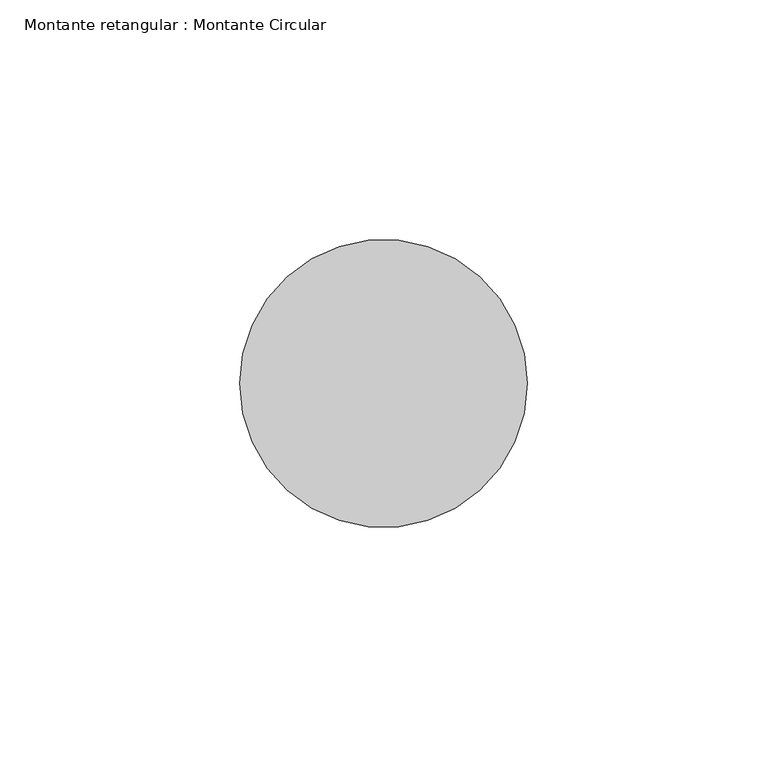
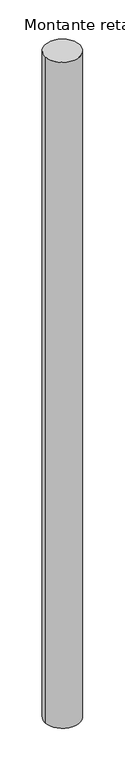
"""IFC4 building model written with IfcOpenShell, lengths in millimetres: member geometry, Montante retangular : Montante Circular."""

import ifcopenshell
import ifcopenshell.guid

model = None  # the IFC model being written
_history = None  # IfcOwnerHistory: only IFC2X3 demands one
_inside = {}  # id of a spatial element -> (the spatial element, [elements in it])
_under = {}  # id of a project, library or spatial element -> (it, [spatial elements below it])
_declared = {}  # id of a project -> (the project, [libraries it declares])
_typed = {}  # id of a type object -> (the type object, [elements of that type])
_made_of = {}  # id of a material, layer set ... -> (it, [elements and type objects made of it])


def new_model(schema):
    """Start an empty IFC model of exactly this schema.

    Asked for "IFC4X3", IfcOpenShell would pick the latest addendum, in which some entities
    have other attributes; the version numbers below select the first issue.
    IFC2X3 requires an IfcOwnerHistory on every rooted entity: one is made here for all.
    """
    global model, _history
    if schema == "IFC4X3":
        model = ifcopenshell.file(schema_version=(4, 3, 0, 0))
    else:
        model = ifcopenshell.file(schema=schema)
    _inside.clear()
    _under.clear()
    _declared.clear()
    _typed.clear()
    _made_of.clear()
    _history = None
    if model.schema == "IFC2X3":
        org = make("IfcOrganization", Name="unknown")
        user = make(
            "IfcPersonAndOrganization",
            ThePerson=make("IfcPerson", FamilyName="unknown"),
            TheOrganization=org,
        )
        app = make(
            "IfcApplication",
            ApplicationDeveloper=org,
            Version="unknown",
            ApplicationFullName="unknown",
            ApplicationIdentifier="unknown",
        )
        _history = make(
            "IfcOwnerHistory",
            OwningUser=user,
            OwningApplication=app,
            ChangeAction="ADDED",
            CreationDate=0,
        )
    return model


def make(cls, **values):
    """One entity of the class cls with the attributes given. An attribute that is None is left unset."""
    return model.create_entity(
        cls, **{name: value for name, value in values.items() if value is not None}
    )


def rooted(cls, **values):
    """An entity with a GlobalId (a new one), such as an element, a storey or a relation."""
    return make(cls, GlobalId=ifcopenshell.guid.new(), OwnerHistory=_history, **values)


def si_unit(unit_type, name, prefix=None):
    """IfcSIUnit, for example si_unit("LENGTHUNIT", "METRE", prefix="MILLI")."""
    return make("IfcSIUnit", UnitType=unit_type, Prefix=prefix, Name=name)


def assignment(units):
    """IfcUnitAssignment: the units of a project."""
    return None if units is None else make("IfcUnitAssignment", Units=units)


def point(xyz):
    """IfcCartesianPoint."""
    return None if xyz is None else make("IfcCartesianPoint", Coordinates=xyz)


def direction(xyz):
    """IfcDirection."""
    return None if xyz is None else make("IfcDirection", DirectionRatios=xyz)


def frame(location, z_axis=None, x_axis=None):
    """IfcAxis2Placement3D, a coordinate frame: its origin and axes. An axis left out is left unset."""
    return make(
        "IfcAxis2Placement3D",
        Location=point(location),
        Axis=direction(z_axis),
        RefDirection=direction(x_axis),
    )


def frame_2d(location, x_axis=None):
    """IfcAxis2Placement2D, a coordinate frame in the plane: its origin and x axis."""
    return make(
        "IfcAxis2Placement2D", Location=point(location), RefDirection=direction(x_axis)
    )


def origin():
    """The frame at (0, 0, 0) with its axes left unset."""
    return frame((0.0, 0.0, 0.0))


def place(relative_to, where):
    """IfcLocalPlacement: puts the frame where relative to a parent placement (None: the world)."""
    return make(
        "IfcLocalPlacement", PlacementRelTo=relative_to, RelativePlacement=where
    )


def context(
    kind, dimensions, precision=None, world=None, true_north=None, identifier=None
):
    """IfcGeometricRepresentationContext, for example the 3D "Model" context."""
    return make(
        "IfcGeometricRepresentationContext",
        ContextIdentifier=identifier,
        ContextType=kind,
        CoordinateSpaceDimension=dimensions,
        Precision=precision,
        WorldCoordinateSystem=world,
        TrueNorth=true_north,
    )


def project(units=None, contexts=None):
    """IfcProject with its units and contexts."""
    return rooted(
        "IfcProject",
        Name="project",
        RepresentationContexts=contexts,
        UnitsInContext=assignment(units),
    )


def spatial(cls, under=None, at=None, **own):
    """A site, building, storey or space (cls), placed at a placement, below another one or the project."""
    s = rooted(cls, ObjectPlacement=at, **own)
    if under is not None:
        _under.setdefault(under.id(), (under, []))[1].append(s)
    return s


def circle_curve(where, radius):
    """IfcCircle in the frame where."""
    return make("IfcCircle", Position=where, Radius=radius)


def trimmed(basis, trim1, trim2, sense, master):
    """IfcTrimmedCurve: the piece of a basis curve between two trims."""
    return make(
        "IfcTrimmedCurve",
        BasisCurve=basis,
        Trim1=trim1,
        Trim2=trim2,
        SenseAgreement=sense,
        MasterRepresentation=master,
    )


def segment(curve, same_sense, transition):
    """IfcCompositeCurveSegment."""
    return make(
        "IfcCompositeCurveSegment",
        Transition=transition,
        SameSense=same_sense,
        ParentCurve=curve,
    )


def composite_curve(segments, self_intersect=None):
    """IfcCompositeCurve: segments joined end to end."""
    return make("IfcCompositeCurve", Segments=segments, SelfIntersect=self_intersect)


def outline(outer, holes=None, kind="AREA"):
    """IfcArbitraryClosedProfileDef: a profile drawn as a closed curve; with holes, ...WithVoids."""
    if holes is None:
        return make("IfcArbitraryClosedProfileDef", ProfileType=kind, OuterCurve=outer)
    return make(
        "IfcArbitraryProfileDefWithVoids",
        ProfileType=kind,
        OuterCurve=outer,
        InnerCurves=holes,
    )


def extrude(swept, where, along, depth):
    """IfcExtrudedAreaSolid: the profile swept, set in the frame where, extruded along a direction by depth."""
    return make(
        "IfcExtrudedAreaSolid",
        SweptArea=swept,
        Position=where,
        ExtrudedDirection=direction(along),
        Depth=depth,
    )


def shape(context_of_items, identifier, shape_type, items):
    """IfcShapeRepresentation: the items that make up one representation, for example the "Body"."""
    return make(
        "IfcShapeRepresentation",
        ContextOfItems=context_of_items,
        RepresentationIdentifier=identifier,
        RepresentationType=shape_type,
        Items=items,
    )


def source(mapping_origin, context_of_items, identifier, shape_type, items):
    """IfcRepresentationMap: a shape defined once, which mapped items show again and again."""
    return make(
        "IfcRepresentationMap",
        MappingOrigin=mapping_origin,
        MappedRepresentation=shape(context_of_items, identifier, shape_type, items),
    )


def transform(
    local_origin,
    x_axis=None,
    y_axis=None,
    z_axis=None,
    scale=None,
    scale2=None,
    scale3=None,
    uniform=True,
):
    """IfcCartesianTransformationOperator3D, or its non-uniform kind. x_axis, y_axis, z_axis: its Axis1, 2, 3."""
    if uniform:
        return make(
            "IfcCartesianTransformationOperator3D",
            Axis1=direction(x_axis),
            Axis2=direction(y_axis),
            LocalOrigin=point(local_origin),
            Scale=scale,
            Axis3=direction(z_axis),
        )
    return make(
        "IfcCartesianTransformationOperator3DnonUniform",
        Axis1=direction(x_axis),
        Axis2=direction(y_axis),
        LocalOrigin=point(local_origin),
        Scale=scale,
        Axis3=direction(z_axis),
        Scale2=scale2,
        Scale3=scale3,
    )


def mapped(mapping_source, mapping_target):
    """IfcMappedItem: shows the shape of a source again, moved by a transform."""
    return make(
        "IfcMappedItem", MappingSource=mapping_source, MappingTarget=mapping_target
    )


def made_of(thing, what):
    """Note that an element or type object is made of a material, layer set ...; save() writes the relation."""
    if what is not None:
        _made_of.setdefault(what.id(), (what, []))[1].append(thing)
    return thing


def element(
    cls,
    number,
    at=None,
    inside=None,
    cuts=None,
    type_object=None,
    material=None,
    context=None,
    identifier="Body",
    shape_type=None,
    held_by="IfcProductDefinitionShape",
    body=None,
    shapes=None,
    **own,
):
    """One element of the class cls, such as IfcWall. Its Tag is "e" and its number.

    at: its placement. inside: the storey or other place that contains it. cuts: it is an
    opening in that element (IfcRelVoidsElement). A single representation is given by context,
    identifier, shape_type and body (its items); several are given by shapes. held_by: the class
    of the entity that holds the representations. save() writes the other relations.
    """
    e = rooted(cls, Tag="e%d" % number, ObjectPlacement=at, **own)
    if body is not None:
        shapes = [shape(context, identifier, shape_type, body)]
    if shapes is not None:
        e.Representation = make(held_by, Representations=shapes)
    if inside is not None:
        _inside.setdefault(inside.id(), (inside, []))[1].append(e)
    if cuts is not None:
        rooted(
            "IfcRelVoidsElement", RelatingBuildingElement=cuts, RelatedOpeningElement=e
        )
    if type_object is not None:
        _typed.setdefault(type_object.id(), (type_object, []))[1].append(e)
    return made_of(e, material)


def aggregate(whole, parts):
    """IfcRelAggregates: a whole, such as a stair, and the parts it consists of."""
    return rooted("IfcRelAggregates", RelatingObject=whole, RelatedObjects=parts)


def save(model, path):
    """Write the relations noted so far, then the file.

    IfcRelAggregates (storeys below a building ...), IfcRelContainedInSpatialStructure (elements
    in a storey), IfcRelDefinesByType, IfcRelAssociatesMaterial and IfcRelDeclares: one each for
    every whole, place, type object, material and project.
    """
    for whole, parts in _under.values():
        aggregate(whole, parts)
    for where, things in _inside.values():
        rooted(
            "IfcRelContainedInSpatialStructure",
            RelatedElements=things,
            RelatingStructure=where,
        )
    for kind, things in _typed.values():
        rooted("IfcRelDefinesByType", RelatedObjects=things, RelatingType=kind)
    for what, things in _made_of.values():
        rooted("IfcRelAssociatesMaterial", RelatedObjects=things, RelatingMaterial=what)
    for by, libraries in _declared.values():
        rooted("IfcRelDeclares", RelatingContext=by, RelatedDefinitions=libraries)
    model.write(path)


def montante_retangular_montante_circular_b6c632e5(model_context):
    return source(origin(), model_context, "Body", "SweptSolid", [
        extrude(outline(composite_curve([segment(trimmed(circle_curve(frame_2d((-30.0, 0.0)), 30.0), [point((0.0, 0.0))], [point((-60.0, 0.0))], False, "CARTESIAN"), True, "CONTINUOUS"), segment(trimmed(circle_curve(frame_2d((-30.0, 0.0)), 30.0), [point((-60.0, 0.0))], [point((0.0, 0.0))], False, "CARTESIAN"), True, "CONTINUOUS")], self_intersect=False)), frame((0.0, 0.0, -1202.491983), z_axis=(0.0, 0.0, 1.0), x_axis=(1.0, 0.0, 0.0)), (0.0, 0.0, 1.0), 1202.491983),
    ])


if __name__ == "__main__":
    model = new_model("IFC4")
    model_context = context("Model", 3, world=origin())
    ifc_project = project(units=[si_unit("LENGTHUNIT", "METRE", prefix="MILLI")], contexts=[model_context])
    site = spatial("IfcSite", under=ifc_project)
    building = spatial("IfcBuilding", under=site)
    placement = place(None, origin())
    montante_retangular_montante_circular_shape = montante_retangular_montante_circular_b6c632e5(model_context)
    element("IfcMember", 1, ObjectType="Montante retangular : Montante Circular", at=placement, inside=building, context=model_context, shape_type="MappedRepresentation", body=[
        mapped(montante_retangular_montante_circular_shape, transform((0.0, 0.0, 0.0), x_axis=(1.0, 0.0, 0.0), y_axis=(0.0, 1.0, 0.0), z_axis=(0.0, 0.0, 1.0))),
    ])
    save(model, "model.ifc")
